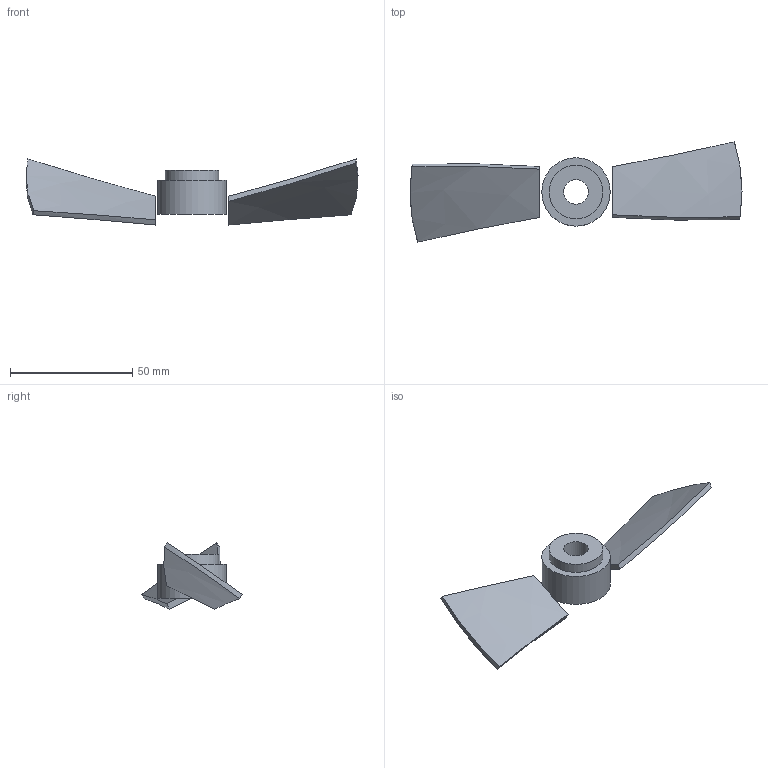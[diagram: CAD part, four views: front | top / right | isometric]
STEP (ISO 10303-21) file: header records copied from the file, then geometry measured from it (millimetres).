
FILE_DESCRIPTION(('Open CASCADE Model'),'2;1');
FILE_NAME('Open CASCADE Shape Model','2026-10-27T17:05:23',('Author'),( 'Open CASCADE'),'Open CASCADE STEP processor 8.0','build123d', 'Unknown');
FILE_SCHEMA(('AUTOMOTIVE_DESIGN { 1 0 10303 214 1 1 1 1 }'));
Length unit declared in the file: millimetre
Products named in the file (1): COMPOUND
Bounding box: 136 x 41.12 x 27.11 mm (x, y, z)
Volume: 15534.7 mm3; surface area: 10225.2 mm2
Topology: 3 solids, 3 shells, 18 faces, 33 edges, 22 vertices
Faces by surface type: bspline 8, plane 5, cylinder 5
Full cylindrical faces by diameter (mm): 10 x1, 22 x1, 28 x1
Entity records: 1138 total; most frequent: CARTESIAN_POINT 516, DIRECTION 79, ORIENTED_EDGE 66, PCURVE 66, DEFINITIONAL_REPRESENTATION 66, B_SPLINE_CURVE_WITH_KNOTS 48, LINE 39, VECTOR 39
